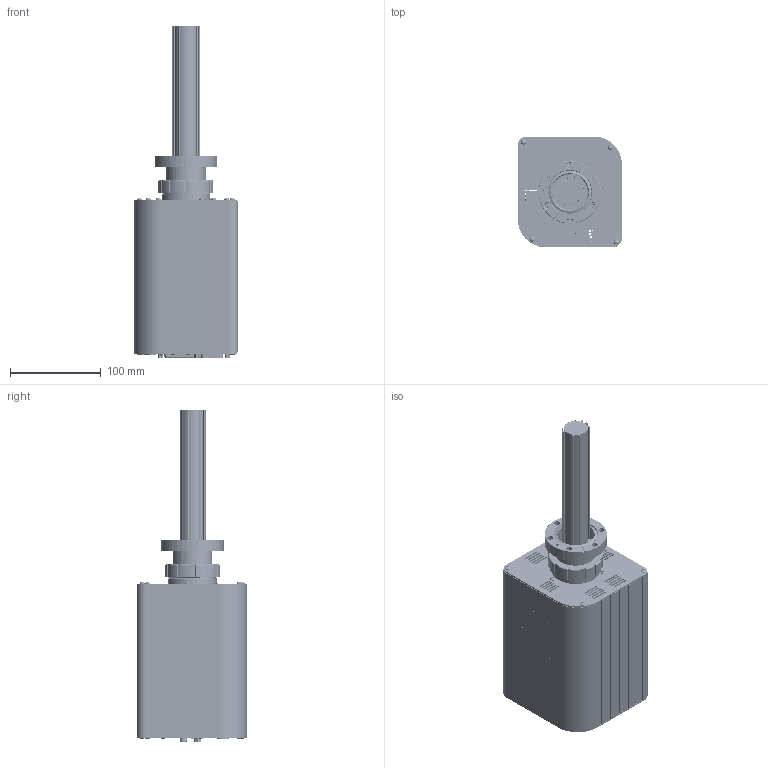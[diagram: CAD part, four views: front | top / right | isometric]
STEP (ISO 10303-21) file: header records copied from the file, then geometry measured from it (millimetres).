
FILE_DESCRIPTION(/* description */ (''),/* implementation_level */ '2;1');
FILE_NAME(/* name */ 'Linxon myRGA Faraday sensor Extended I-O without extension flange.stp',/* time_stamp */ '2019-12-05T09:23:12-05:00',/* author */ (''),/* organization */ (''),/* preprocessor_version */ 'ST-DEVELOPER v16',/* originating_system */ 'SIEMENS PLM Software NX 10.0',/* authorisation */ '');
FILE_SCHEMA (('AP203_CONFIGURATION_CONTROLLED_3D_DESIGN_OF_MECHANICAL_PARTS_AND_ASSEMBLIES_MIM_LF { 1 0 10303 403 2 1 2}'));
Products named in the file (1): cbro333054581lfh
Bounding box: 128.58 x 121.67 x 366.31 mm (x, y, z)
Volume: 543298.7 mm3; surface area: 391761.4 mm2
Topology: 87 solids, 413 shells, 3760 faces, 10774 edges, 7707 vertices
Faces by surface type: plane 2314, cylinder 893, cone 370, bspline 89, extrusion 34, torus 32, revolution 24, sphere 4
Full cylindrical faces by diameter (mm): 0.127 x1, 0.635 x15, 0.716 x4, 0.762 x4, 1.1 x2, 1.143 x15, 1.575 x23, 1.6 x7, 1.68 x2, 1.778 x2, 1.905 x1, 2.05 x3, 2.083 x15, 2.184 x2, 2.261 x4, 2.413 x2, 2.438 x6, 2.489 x2, 2.497 x1, 2.5 x10, 2.8 x1, 2.84 x4, 2.845 x2, 3 x15, 3.048 x21, 3.099 x2, 3.1 x3, 3.15 x2, 3.175 x1, 3.264 x1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
Entity records: 148290 total; most frequent: CARTESIAN_POINT 54122, ORIENTED_EDGE 18946, DIRECTION 18033, EDGE_CURVE 10138, VERTEX_POINT 7537, VECTOR 6125, LINE 6091, AXIS2_PLACEMENT_3D 5942
